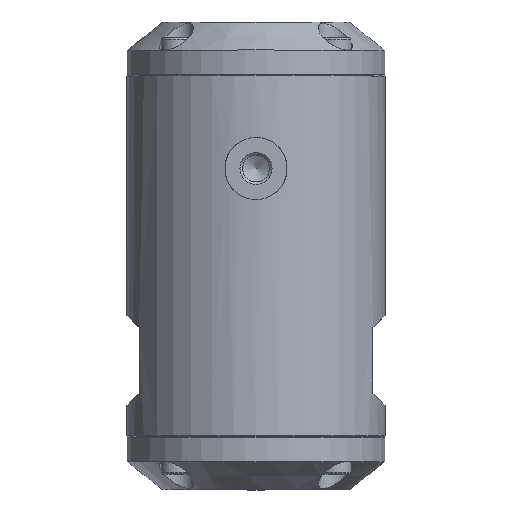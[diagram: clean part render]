
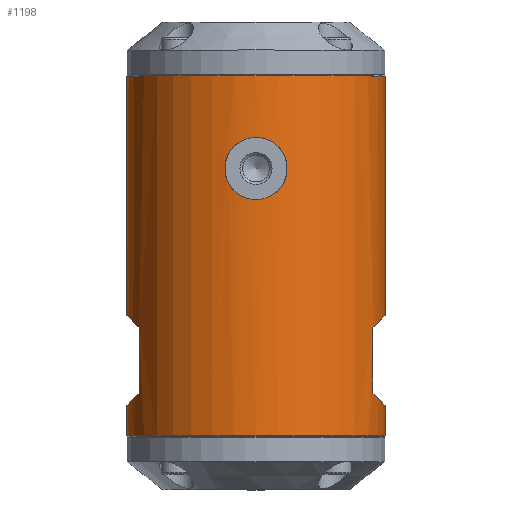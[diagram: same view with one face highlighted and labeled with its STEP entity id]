
A CAD part, top view. The second image highlights one B-rep face of the part: STEP entity #1198.
In plain terms, the highlighted cylindrical face has radius 41.5 mm (diameter 83 mm), a full revolution.
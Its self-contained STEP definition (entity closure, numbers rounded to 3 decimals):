
#31=B_SPLINE_CURVE_WITH_KNOTS('',3,(#6086,#6087,#6088,#6089,#6090,#6091,
#6092,#6093,#6094,#6095),.UNSPECIFIED.,.F.,.F.,(4,2,2,2,4),(0.,0.25,0.5,
0.75,1.),.UNSPECIFIED.);
#32=B_SPLINE_CURVE_WITH_KNOTS('',3,(#6100,#6101,#6102,#6103,#6104,#6105,
#6106,#6107,#6108,#6109),.UNSPECIFIED.,.F.,.F.,(4,2,2,2,4),(0.,0.25,0.5,
0.75,1.),.UNSPECIFIED.);
#41=ELLIPSE('',#4155,58.69,41.5);
#42=ELLIPSE('',#4156,58.69,41.5);
#43=ELLIPSE('',#4157,58.69,41.5);
#44=ELLIPSE('',#4158,58.69,41.5);
#129=LINE('',#6070,#283);
#130=LINE('',#6075,#284);
#131=LINE('',#6078,#285);
#132=LINE('',#6083,#286);
#133=LINE('',#6098,#287);
#134=LINE('',#6111,#288);
#283=VECTOR('',#4871,1.);
#284=VECTOR('',#4874,1.);
#285=VECTOR('',#4877,1.);
#286=VECTOR('',#4880,1.);
#287=VECTOR('',#4883,1.);
#288=VECTOR('',#4884,1.);
#620=CYLINDRICAL_SURFACE('',#4159,41.5);
#775=FACE_BOUND('',#1779,.T.);
#776=FACE_BOUND('',#1780,.T.);
#777=FACE_BOUND('',#1781,.T.);
#778=FACE_BOUND('',#1782,.T.);
#779=FACE_BOUND('',#1783,.T.);
#1198=ADVANCED_FACE('',(#775,#776,#777,#778,#779),#620,.T.);
#1779=EDGE_LOOP('',(#2381));
#1780=EDGE_LOOP('',(#2382));
#1781=EDGE_LOOP('',(#2383,#2384,#2385,#2386));
#1782=EDGE_LOOP('',(#2387,#2388,#2389,#2390));
#1783=EDGE_LOOP('',(#2391,#2392,#2393,#2394));
#2381=ORIENTED_EDGE('',*,*,#3418,.F.);
#2382=ORIENTED_EDGE('',*,*,#3419,.T.);
#2383=ORIENTED_EDGE('',*,*,#3420,.F.);
#2384=ORIENTED_EDGE('',*,*,#3421,.F.);
#2385=ORIENTED_EDGE('',*,*,#3422,.F.);
#2386=ORIENTED_EDGE('',*,*,#3423,.F.);
#2387=ORIENTED_EDGE('',*,*,#3424,.F.);
#2388=ORIENTED_EDGE('',*,*,#3425,.F.);
#2389=ORIENTED_EDGE('',*,*,#3426,.F.);
#2390=ORIENTED_EDGE('',*,*,#3427,.F.);
#2391=ORIENTED_EDGE('',*,*,#3428,.T.);
#2392=ORIENTED_EDGE('',*,*,#3429,.T.);
#2393=ORIENTED_EDGE('',*,*,#3430,.T.);
#2394=ORIENTED_EDGE('',*,*,#3431,.T.);
#3064=VERTEX_POINT('',#6067);
#3065=VERTEX_POINT('',#6069);
#3066=VERTEX_POINT('',#6071);
#3067=VERTEX_POINT('',#6072);
#3068=VERTEX_POINT('',#6074);
#3069=VERTEX_POINT('',#6076);
#3070=VERTEX_POINT('',#6079);
#3071=VERTEX_POINT('',#6080);
#3072=VERTEX_POINT('',#6082);
#3073=VERTEX_POINT('',#6084);
#3074=VERTEX_POINT('',#6096);
#3075=VERTEX_POINT('',#6097);
#3076=VERTEX_POINT('',#6099);
#3077=VERTEX_POINT('',#6110);
#3418=EDGE_CURVE('',#3064,#3064,#3849,.T.);
#3419=EDGE_CURVE('',#3065,#3065,#3850,.T.);
#3420=EDGE_CURVE('',#3066,#3067,#129,.T.);
#3421=EDGE_CURVE('',#3068,#3066,#41,.T.);
#3422=EDGE_CURVE('',#3069,#3068,#130,.T.);
#3423=EDGE_CURVE('',#3067,#3069,#42,.T.);
#3424=EDGE_CURVE('',#3070,#3071,#131,.T.);
#3425=EDGE_CURVE('',#3072,#3070,#43,.T.);
#3426=EDGE_CURVE('',#3073,#3072,#132,.T.);
#3427=EDGE_CURVE('',#3071,#3073,#44,.T.);
#3428=EDGE_CURVE('',#3074,#3075,#31,.T.);
#3429=EDGE_CURVE('',#3075,#3076,#133,.T.);
#3430=EDGE_CURVE('',#3076,#3077,#32,.T.);
#3431=EDGE_CURVE('',#3077,#3074,#134,.T.);
#3849=CIRCLE('',#4153,41.5);
#3850=CIRCLE('',#4154,41.5);
#4153=AXIS2_PLACEMENT_3D('',#6066,#4867,#4868);
#4154=AXIS2_PLACEMENT_3D('',#6068,#4869,#4870);
#4155=AXIS2_PLACEMENT_3D('',#6073,#4872,#4873);
#4156=AXIS2_PLACEMENT_3D('',#6077,#4875,#4876);
#4157=AXIS2_PLACEMENT_3D('',#6081,#4878,#4879);
#4158=AXIS2_PLACEMENT_3D('',#6085,#4881,#4882);
#4159=AXIS2_PLACEMENT_3D('',#6112,#4885,#4886);
#4867=DIRECTION('',(0.,-1.,0.));
#4868=DIRECTION('',(0.,0.,1.));
#4869=DIRECTION('',(0.,-1.,0.));
#4870=DIRECTION('',(0.,0.,1.));
#4871=DIRECTION('',(0.,-1.,0.));
#4872=DIRECTION('',(0.707,-0.707,0.));
#4873=DIRECTION('',(0.707,0.707,0.));
#4874=DIRECTION('',(0.,1.,0.));
#4875=DIRECTION('',(0.707,0.707,0.));
#4876=DIRECTION('',(-0.707,0.707,0.));
#4877=DIRECTION('',(0.,-1.,0.));
#4878=DIRECTION('',(-0.707,-0.707,0.));
#4879=DIRECTION('',(-0.707,0.707,0.));
#4880=DIRECTION('',(0.,1.,0.));
#4881=DIRECTION('',(-0.707,0.707,0.));
#4882=DIRECTION('',(0.707,0.707,0.));
#4883=DIRECTION('',(0.,-1.,0.));
#4884=DIRECTION('',(0.,1.,0.));
#4885=DIRECTION('',(0.,1.,0.));
#4886=DIRECTION('',(0.,0.,1.));
#6066=CARTESIAN_POINT('',(0.,-42.7,0.));
#6067=CARTESIAN_POINT('',(0.,-42.7,41.5));
#6068=CARTESIAN_POINT('',(0.,72.7,0.));
#6069=CARTESIAN_POINT('',(0.,72.7,41.5));
#6070=CARTESIAN_POINT('',(37.5,15.,17.776));
#6071=CARTESIAN_POINT('',(37.5,-8.,17.776));
#6072=CARTESIAN_POINT('',(37.5,-29.,17.776));
#6073=CARTESIAN_POINT('',(0.,-45.5,0.));
#6074=CARTESIAN_POINT('',(37.5,-8.,-17.776));
#6075=CARTESIAN_POINT('',(37.5,15.,-17.776));
#6076=CARTESIAN_POINT('',(37.5,-29.,-17.776));
#6077=CARTESIAN_POINT('',(0.,8.5,0.));
#6078=CARTESIAN_POINT('',(-37.5,15.,-17.776));
#6079=CARTESIAN_POINT('',(-37.5,-8.,-17.776));
#6080=CARTESIAN_POINT('',(-37.5,-29.,-17.776));
#6081=CARTESIAN_POINT('',(0.,-45.5,0.));
#6082=CARTESIAN_POINT('',(-37.5,-8.,17.776));
#6083=CARTESIAN_POINT('',(-37.5,15.,17.776));
#6084=CARTESIAN_POINT('',(-37.5,-29.,17.776));
#6085=CARTESIAN_POINT('',(0.,8.5,0.));
#6086=CARTESIAN_POINT('',(-9.908,44.356,40.3));
#6087=CARTESIAN_POINT('',(-9.579,46.756,40.381));
#6088=CARTESIAN_POINT('',(-8.376,48.961,40.687));
#6089=CARTESIAN_POINT('',(-4.779,52.103,41.264));
#6090=CARTESIAN_POINT('',(-2.401,52.999,41.5));
#6091=CARTESIAN_POINT('',(2.391,53.001,41.5));
#6092=CARTESIAN_POINT('',(4.784,52.097,41.263));
#6093=CARTESIAN_POINT('',(8.36,48.978,40.69));
#6094=CARTESIAN_POINT('',(9.579,46.756,40.381));
#6095=CARTESIAN_POINT('',(9.908,44.356,40.3));
#6096=CARTESIAN_POINT('',(-9.908,44.356,40.3));
#6097=CARTESIAN_POINT('',(9.908,44.356,40.3));
#6098=CARTESIAN_POINT('',(9.908,15.,40.3));
#6099=CARTESIAN_POINT('',(9.908,41.644,40.3));
#6100=CARTESIAN_POINT('',(9.908,41.644,40.3));
#6101=CARTESIAN_POINT('',(9.579,39.244,40.381));
#6102=CARTESIAN_POINT('',(8.376,37.039,40.687));
#6103=CARTESIAN_POINT('',(4.779,33.897,41.264));
#6104=CARTESIAN_POINT('',(2.401,33.001,41.5));
#6105=CARTESIAN_POINT('',(-2.391,32.999,41.5));
#6106=CARTESIAN_POINT('',(-4.784,33.903,41.263));
#6107=CARTESIAN_POINT('',(-8.36,37.022,40.69));
#6108=CARTESIAN_POINT('',(-9.579,39.244,40.381));
#6109=CARTESIAN_POINT('',(-9.908,41.644,40.3));
#6110=CARTESIAN_POINT('',(-9.908,41.644,40.3));
#6111=CARTESIAN_POINT('',(-9.908,15.,40.3));
#6112=CARTESIAN_POINT('',(0.,15.,0.));
